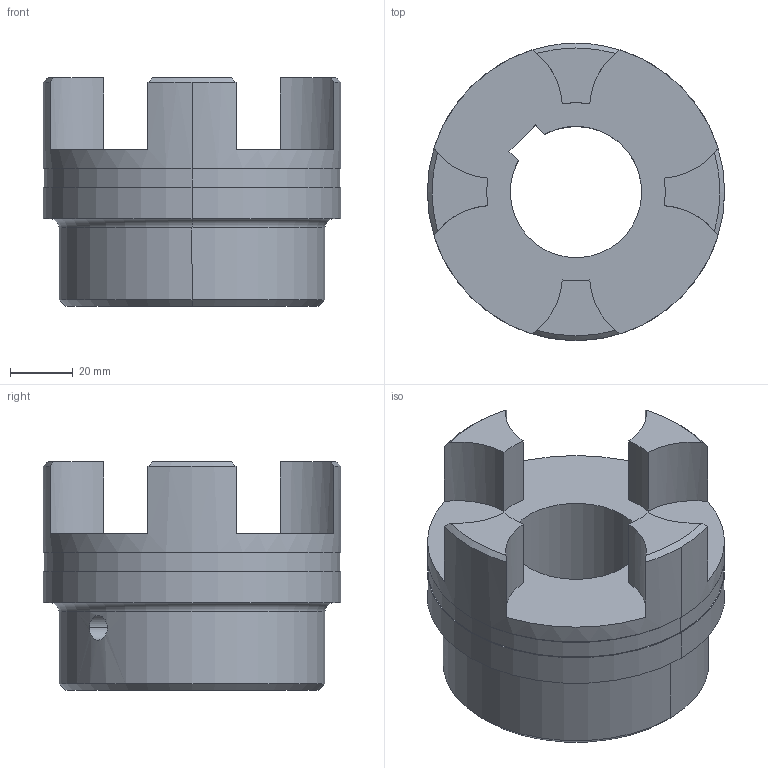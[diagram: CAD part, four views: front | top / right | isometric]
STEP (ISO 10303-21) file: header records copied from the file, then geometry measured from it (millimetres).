
FILE_DESCRIPTION((''),'2;1');
FILE_NAME('020425004200_INT','2021-12-16T09:58:38',('W.Rathmann'),(''),'CREO PARAMETRIC BY PTC INC, 2020044','CREO PARAMETRIC BY PTC INC, 2020044','');
FILE_SCHEMA(('CONFIG_CONTROL_DESIGN'));
Length unit declared in the file: millimetre
Products named in the file (1): 020425004200_INT
Bounding box: 95 x 95 x 73 mm (x, y, z)
Volume: 269005.1 mm3; surface area: 39317.9 mm2
Topology: 1 solids, 1 shells, 43 faces, 117 edges, 86 vertices
Faces by surface type: cylinder 23, plane 12, cone 6, torus 2
Entity records: 1470 total; most frequent: CARTESIAN_POINT 299, DIRECTION 257, ORIENTED_EDGE 220, EDGE_CURVE 110, AXIS2_PLACEMENT_3D 106, VERTEX_POINT 72, CIRCLE 62, EDGE_LOOP 50
